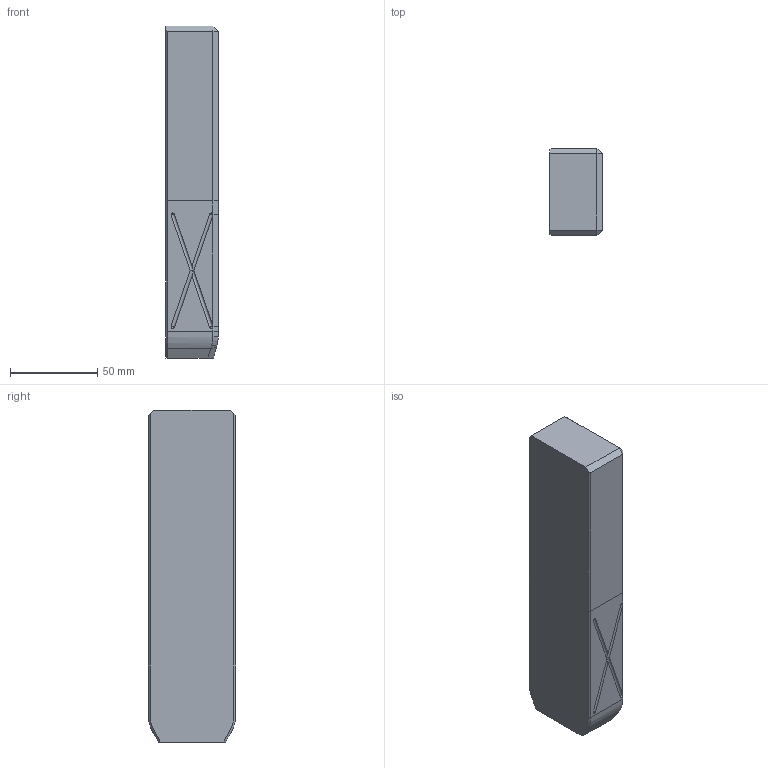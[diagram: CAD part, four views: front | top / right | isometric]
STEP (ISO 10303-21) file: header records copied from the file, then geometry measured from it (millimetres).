
FILE_DESCRIPTION((''),'2;1');
FILE_NAME('','2010-08-30T17:50:55+09:00',('misumi'),(''),'M/STEP i/f 1R2-14','CADmeister v5.1','');
FILE_SCHEMA(('AUTOMOTIVE_DESIGN'));
Length unit declared in the file: millimetre
Products named in the file (1): GW50-90-190
Bounding box: 30 x 50 x 190 mm (x, y, z)
Volume: 279514.1 mm3; surface area: 32252 mm2
Topology: 1 solids, 1 shells, 70 faces, 190 edges, 111 vertices
Faces by surface type: plane 35, cylinder 15, revolution 12, bspline 6, cone 2
Entity records: 3333 total; most frequent: CARTESIAN_POINT 792, ORIENTED_EDGE 356, DIRECTION 332, COLOUR_RGB 193, CURVE_STYLE 186, PRESENTATION_STYLE_ASSIGNMENT 185, OVER_RIDING_STYLED_ITEM 184, EDGE_CURVE 178
